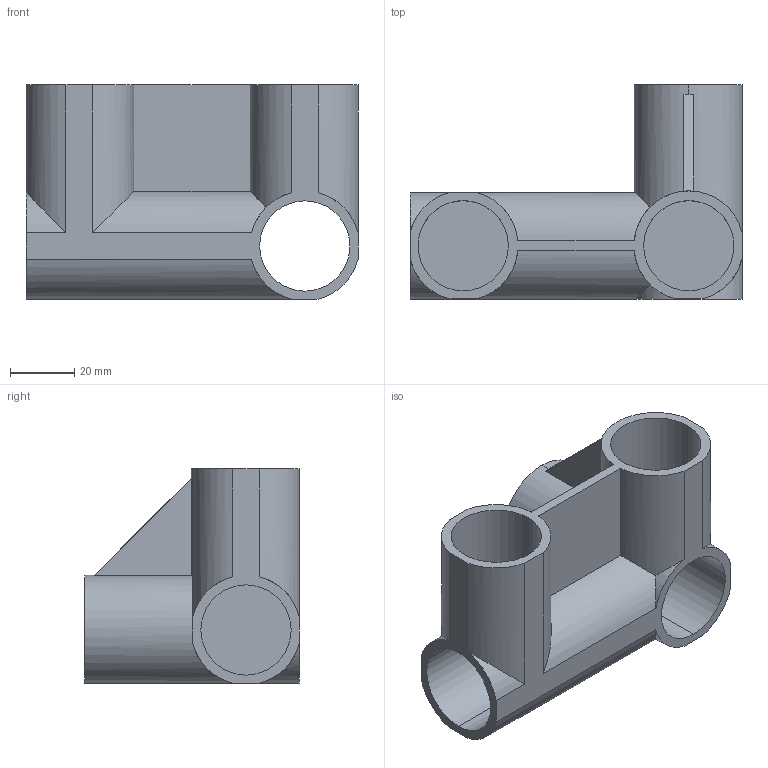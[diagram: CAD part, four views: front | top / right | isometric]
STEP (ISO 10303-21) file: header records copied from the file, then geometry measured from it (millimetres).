
FILE_DESCRIPTION (( 'STEP AP214' ), '1' );
FILE_NAME ('PJ-603L.STEP', '2023-09-12T11:20:45', ( 'catia' ), ( 'HP Inc.' ), 'SwSTEP 2.0', 'SolidWorks 2021', '' );
FILE_SCHEMA (( 'AUTOMOTIVE_DESIGN' ));
Length unit declared in the file: millimetre
Products named in the file (1): PJ-603L
Bounding box: 103 x 66.5 x 66.5 mm (x, y, z)
Volume: 73842.2 mm3; surface area: 43256.4 mm2
Topology: 1 solids, 1 shells, 42 faces, 111 edges, 74 vertices
Faces by surface type: cylinder 27, plane 15
Entity records: 1348 total; most frequent: CARTESIAN_POINT 279, ORIENTED_EDGE 222, DIRECTION 215, EDGE_CURVE 111, AXIS2_PLACEMENT_3D 78, VERTEX_POINT 74, VECTOR 59, LINE 59
